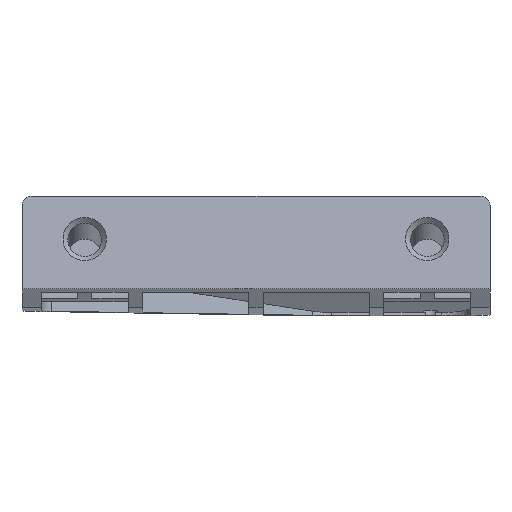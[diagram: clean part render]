
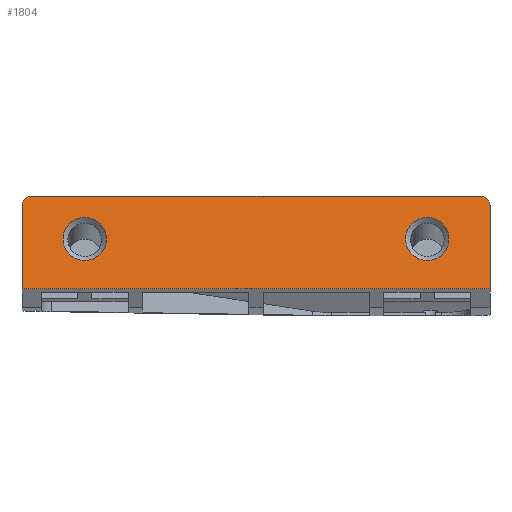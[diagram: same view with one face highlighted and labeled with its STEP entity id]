
A CAD part, front view. The second image highlights one B-rep face of the part: STEP entity #1804.
In plain terms, the highlighted planar face has unit normal (0, -0.985, 0.174).
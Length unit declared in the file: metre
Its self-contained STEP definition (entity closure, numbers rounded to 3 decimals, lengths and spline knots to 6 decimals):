
#193=LINE('',#3016,#372);
#197=LINE('',#3026,#376);
#199=LINE('',#3030,#378);
#201=LINE('',#3034,#380);
#372=VECTOR('',#2483,1.);
#376=VECTOR('',#2493,1.);
#378=VECTOR('',#2497,1.);
#380=VECTOR('',#2501,1.);
#910=ORIENTED_EDGE('',*,*,#920,.F.);
#911=ORIENTED_EDGE('',*,*,#923,.F.);
#912=ORIENTED_EDGE('',*,*,#1166,.F.);
#913=ORIENTED_EDGE('',*,*,#1164,.F.);
#914=ORIENTED_EDGE('',*,*,#1162,.F.);
#915=ORIENTED_EDGE('',*,*,#1161,.F.);
#916=ORIENTED_EDGE('',*,*,#1157,.F.);
#917=ORIENTED_EDGE('',*,*,#1168,.F.);
#920=EDGE_CURVE('',#1171,#1171,#1339,.T.);
#923=EDGE_CURVE('',#1174,#1174,#1342,.T.);
#1157=EDGE_CURVE('',#1331,#1332,#193,.T.);
#1161=EDGE_CURVE('',#1332,#1333,#1398,.T.);
#1162=EDGE_CURVE('',#1333,#1334,#197,.T.);
#1164=EDGE_CURVE('',#1334,#1335,#199,.T.);
#1166=EDGE_CURVE('',#1335,#1336,#201,.T.);
#1168=EDGE_CURVE('',#1336,#1331,#1399,.T.);
#1171=VERTEX_POINT('',#2518);
#1174=VERTEX_POINT('',#2527);
#1331=VERTEX_POINT('',#3017);
#1332=VERTEX_POINT('',#3018);
#1333=VERTEX_POINT('',#3023);
#1334=VERTEX_POINT('',#3027);
#1335=VERTEX_POINT('',#3031);
#1336=VERTEX_POINT('',#3035);
#1339=CIRCLE('',#1823,0.00225);
#1342=CIRCLE('',#1829,0.00225);
#1398=CIRCLE('',#1981,0.001);
#1399=CIRCLE('',#1986,0.001);
#1518=EDGE_LOOP('',(#910));
#1519=EDGE_LOOP('',(#911));
#1520=EDGE_LOOP('',(#912,#913,#914,#915,#916,#917));
#1639=FACE_BOUND('',#1518,.T.);
#1640=FACE_BOUND('',#1519,.T.);
#1641=FACE_BOUND('',#1520,.T.);
#1704=PLANE('',#1987);
#1804=ADVANCED_FACE('',(#1639,#1640,#1641),#1704,.F.);
#1823=AXIS2_PLACEMENT_3D('',#2517,#2000,#2001);
#1829=AXIS2_PLACEMENT_3D('',#2526,#2012,#2013);
#1981=AXIS2_PLACEMENT_3D('',#3024,#2489,#2490);
#1986=AXIS2_PLACEMENT_3D('',#3038,#2505,#2506);
#1987=AXIS2_PLACEMENT_3D('',#3039,#2507,#2508);
#2000=DIRECTION('',(0.,-0.985,0.174));
#2001=DIRECTION('',(1.,0.,0.));
#2012=DIRECTION('',(0.,-0.985,0.174));
#2013=DIRECTION('',(1.,0.,0.));
#2483=DIRECTION('',(1.,0.,0.));
#2489=DIRECTION('',(0.,0.985,-0.174));
#2490=DIRECTION('',(0.,0.174,0.985));
#2493=DIRECTION('',(0.,-0.174,-0.985));
#2497=DIRECTION('',(-1.,0.,0.));
#2501=DIRECTION('',(0.,0.174,0.985));
#2505=DIRECTION('',(0.,0.985,-0.174));
#2506=DIRECTION('',(-1.,0.,0.));
#2507=DIRECTION('',(0.,0.985,-0.174));
#2508=DIRECTION('',(-1.,0.,0.));
#2517=CARTESIAN_POINT('',(-0.088517,0.050476,1.471803));
#2518=CARTESIAN_POINT('',(-0.086267,0.050476,1.471803));
#2526=CARTESIAN_POINT('',(-0.053017,0.050476,1.471803));
#2527=CARTESIAN_POINT('',(-0.050767,0.050476,1.471803));
#3016=CARTESIAN_POINT('',(-0.094017,0.051257,1.476235));
#3017=CARTESIAN_POINT('',(-0.094017,0.051257,1.476235));
#3018=CARTESIAN_POINT('',(-0.047517,0.051257,1.476235));
#3023=CARTESIAN_POINT('',(-0.046517,0.051083,1.47525));
#3024=CARTESIAN_POINT('',(-0.047517,0.051083,1.47525));
#3026=CARTESIAN_POINT('',(-0.046517,0.051083,1.47525));
#3027=CARTESIAN_POINT('',(-0.046517,0.049564,1.466633));
#3030=CARTESIAN_POINT('',(-0.046517,0.049564,1.466633));
#3031=CARTESIAN_POINT('',(-0.095017,0.049564,1.466633));
#3034=CARTESIAN_POINT('',(-0.095017,0.049564,1.466633));
#3035=CARTESIAN_POINT('',(-0.095017,0.051083,1.47525));
#3038=CARTESIAN_POINT('',(-0.094017,0.051083,1.47525));
#3039=CARTESIAN_POINT('',(0.,-0.20274,0.035748));
